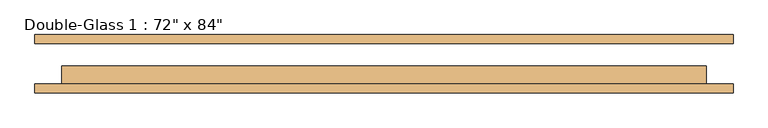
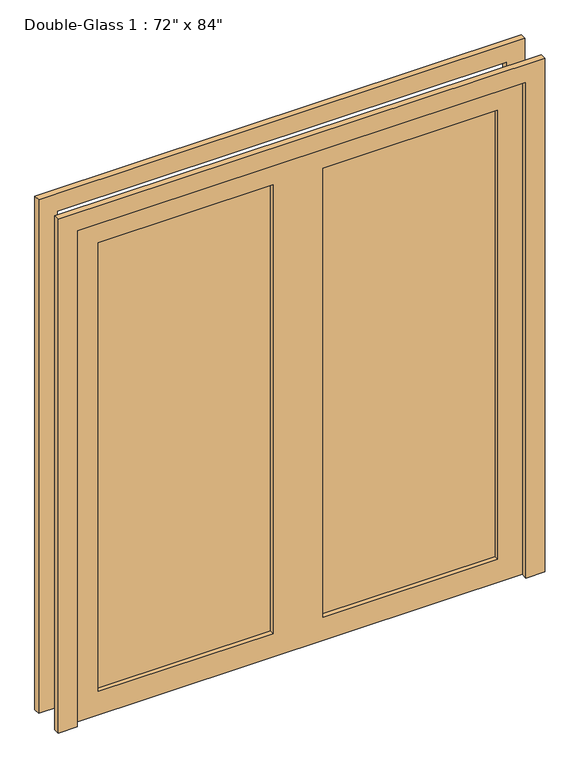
"""IFC4 building model written with IfcOpenShell, lengths in millimetres: door geometry."""

from ifc_helpers import new_model, si_unit, frame, origin, place, context, project, spatial, polyline, outline, extrude, source, transform, mapped, element, save


def door_6bc470f4(model_context):
    return source(origin(), model_context, "Body", "SweptSolid", [
        extrude(outline(polyline([(0.0, 990.6), (2209.8, 990.6), (2209.8, -990.6), (0.0, -990.6), (0.0, -914.4), (2133.6, -914.4), (2133.6, 914.4), (0.0, 914.4), (0.0, 990.6)])), frame((0.0, 54.76875, 0.0), z_axis=(0.0, 1.0, 0.0), x_axis=(0.0, 0.0, 1.0)), (0.0, 0.0, 1.0), 25.4),
        extrude(outline(polyline([(2133.6, 914.4), (0.0, 914.4), (0.0, 990.6), (2209.8, 990.6), (2209.8, -990.6), (0.0, -990.6), (0.0, -914.4), (2133.6, -914.4), (2133.6, 914.4)])), frame((0.0, -84.93125, 0.0), z_axis=(0.0, 1.0, 0.0), x_axis=(0.0, 0.0, 1.0)), (0.0, 0.0, 1.0), 25.4),
        extrude(outline(polyline([(812.8, -34.13125), (812.8, -41.275), (101.6, -41.275), (101.6, -34.13125), (812.8, -34.13125)])), frame((0.0, 0.0, 101.6), z_axis=(0.0, 0.0, 1.0), x_axis=(1.0, 0.0, 0.0)), (0.0, 0.0, 1.0), 1930.4),
        extrude(outline(polyline([(-101.6, -34.13125), (-101.6, -41.275), (-812.8, -41.275), (-812.8, -34.13125), (-101.6, -34.13125)])), frame((0.0, 0.0, 101.6), z_axis=(0.0, 0.0, 1.0), x_axis=(1.0, 0.0, 0.0)), (0.0, 0.0, 1.0), 1930.4),
        extrude(outline(polyline([(2133.6, 914.4), (2133.6, -914.4), (0.0, -914.4), (0.0, 914.4), (2133.6, 914.4)]), holes=[polyline([(2032.0, -101.6), (101.6, -101.6), (101.6, -812.8), (2032.0, -812.8), (2032.0, -101.6)]), polyline([(2032.0, 812.8), (101.6, 812.8), (101.6, 101.6), (2032.0, 101.6), (2032.0, 812.8)])]), frame((0.0, -59.53125, 0.0), z_axis=(0.0, 1.0, 0.0), x_axis=(0.0, 0.0, 1.0)), (0.0, 0.0, 1.0), 50.8),
    ])


if __name__ == "__main__":
    model = new_model("IFC4")
    model_context = context("Model", 3, world=origin())
    ifc_project = project(units=[si_unit("LENGTHUNIT", "METRE", prefix="MILLI")], contexts=[model_context])
    site = spatial("IfcSite", under=ifc_project)
    building = spatial("IfcBuilding", under=site)
    placement = place(None, origin())
    door_shape = door_6bc470f4(model_context)
    element("IfcDoor", 1, ObjectType="Double-Glass 1 : 72\" x 84\"", at=placement, inside=building, context=model_context, shape_type="MappedRepresentation", body=[
        mapped(door_shape, transform((0.0, 0.0, 0.0), x_axis=(1.0, 0.0, 0.0), y_axis=(0.0, 1.0, 0.0), z_axis=(0.0, 0.0, 1.0))),
    ])
    save(model, "model.ifc")
